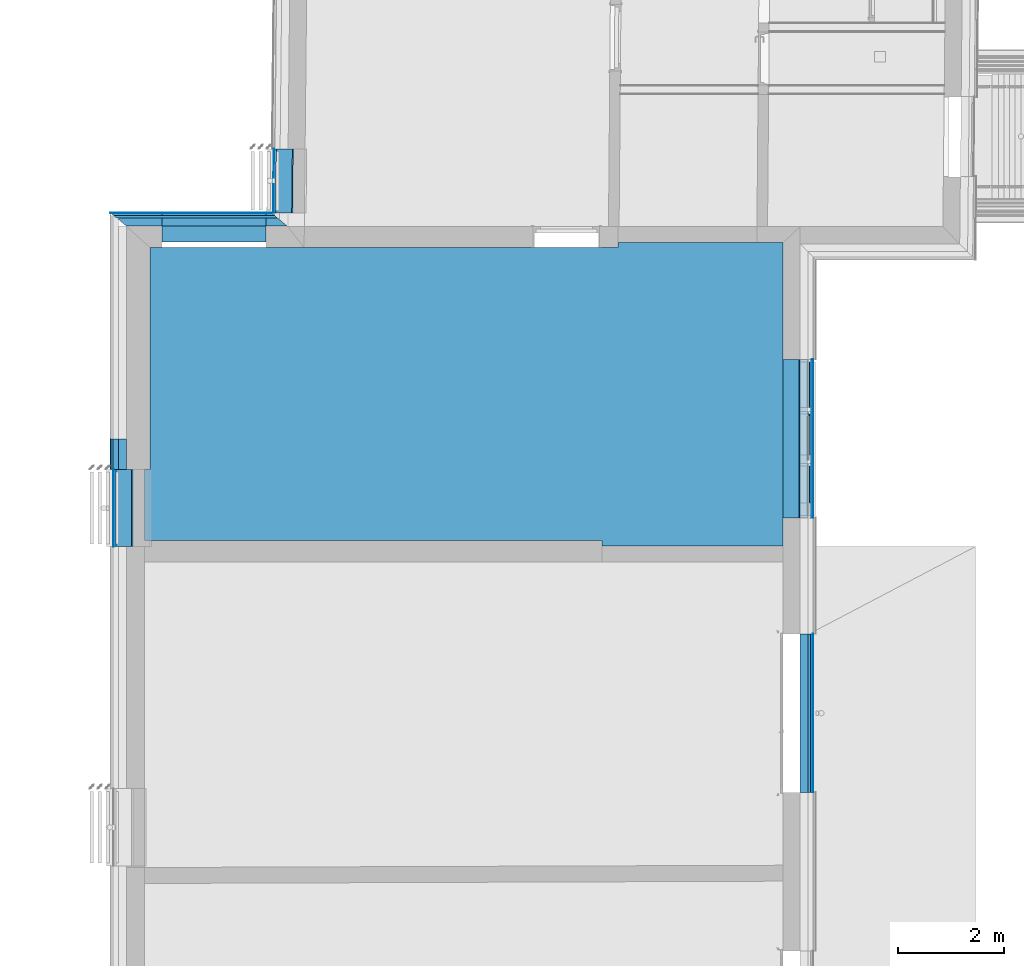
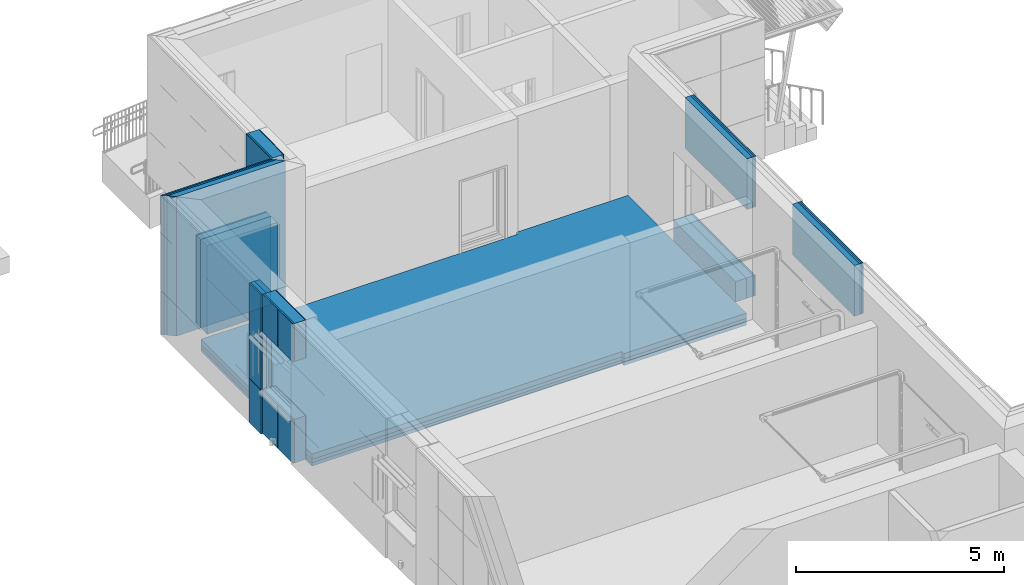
# One storey, part 52 of 418: 35 building element parts, 24 openings, 9 elements without a shape of their own.
"""IFC2X3 building model written with IfcOpenShell, lengths in millimetres."""

import ifcopenshell
import ifcopenshell.guid

model = None  # the IFC model being written
_history = None  # IfcOwnerHistory: only IFC2X3 demands one
_inside = {}  # id of a spatial element -> (the spatial element, [elements in it])
_under = {}  # id of a project, library or spatial element -> (it, [spatial elements below it])
_declared = {}  # id of a project -> (the project, [libraries it declares])
_typed = {}  # id of a type object -> (the type object, [elements of that type])
_made_of = {}  # id of a material, layer set ... -> (it, [elements and type objects made of it])


def new_model(schema):
    """Start an empty IFC model of exactly this schema.

    Asked for "IFC4X3", IfcOpenShell would pick the latest addendum, in which some entities
    have other attributes; the version numbers below select the first issue.
    IFC2X3 requires an IfcOwnerHistory on every rooted entity: one is made here for all.
    """
    global model, _history
    if schema == "IFC4X3":
        model = ifcopenshell.file(schema_version=(4, 3, 0, 0))
    else:
        model = ifcopenshell.file(schema=schema)
    _inside.clear()
    _under.clear()
    _declared.clear()
    _typed.clear()
    _made_of.clear()
    _history = None
    if model.schema == "IFC2X3":
        org = make("IfcOrganization", Name="unknown")
        user = make(
            "IfcPersonAndOrganization",
            ThePerson=make("IfcPerson", FamilyName="unknown"),
            TheOrganization=org,
        )
        app = make(
            "IfcApplication",
            ApplicationDeveloper=org,
            Version="unknown",
            ApplicationFullName="unknown",
            ApplicationIdentifier="unknown",
        )
        _history = make(
            "IfcOwnerHistory",
            OwningUser=user,
            OwningApplication=app,
            ChangeAction="ADDED",
            CreationDate=0,
        )
    return model


def make(cls, **values):
    """One entity of the class cls with the attributes given. An attribute that is None is left unset."""
    return model.create_entity(
        cls, **{name: value for name, value in values.items() if value is not None}
    )


def entity(cls, *values):
    """Any entity or typed value of the class cls, its attributes in the order of the schema. None: left unset."""
    e = model.create_entity(cls)
    for i, value in enumerate(values):
        if value is not None:
            e[i] = value
    return e


def rooted(cls, **values):
    """An entity with a GlobalId (a new one), such as an element, a storey or a relation."""
    return make(cls, GlobalId=ifcopenshell.guid.new(), OwnerHistory=_history, **values)


def si_unit(unit_type, name, prefix=None):
    """IfcSIUnit, for example si_unit("LENGTHUNIT", "METRE", prefix="MILLI")."""
    return make("IfcSIUnit", UnitType=unit_type, Prefix=prefix, Name=name)


def converted_unit(unit_type, name, factor, base, dimensions=None, offset=None):
    """IfcConversionBasedUnit, such as the inch: factor (a typed value) times the base unit."""
    return make(
        "IfcConversionBasedUnit"
        if offset is None
        else "IfcConversionBasedUnitWithOffset",
        ConversionOffset=offset,
        Dimensions=None
        if dimensions is None
        else entity("IfcDimensionalExponents", *dimensions),
        UnitType=unit_type,
        Name=name,
        ConversionFactor=make(
            "IfcMeasureWithUnit", ValueComponent=factor, UnitComponent=base
        ),
    )


def derived_unit(unit_type, elements):
    """IfcDerivedUnit: a product of units, each with its exponent."""
    return make(
        "IfcDerivedUnit",
        Elements=[
            make("IfcDerivedUnitElement", Unit=unit, Exponent=power)
            for unit, power in elements
        ],
        UnitType=unit_type,
    )


def money_unit(currency):
    """IfcMonetaryUnit."""
    return make("IfcMonetaryUnit", Currency=currency)


def assignment(units):
    """IfcUnitAssignment: the units of a project."""
    return None if units is None else make("IfcUnitAssignment", Units=units)


def point(xyz):
    """IfcCartesianPoint."""
    return None if xyz is None else make("IfcCartesianPoint", Coordinates=xyz)


def direction(xyz):
    """IfcDirection."""
    return None if xyz is None else make("IfcDirection", DirectionRatios=xyz)


def frame(location, z_axis=None, x_axis=None):
    """IfcAxis2Placement3D, a coordinate frame: its origin and axes. An axis left out is left unset."""
    return make(
        "IfcAxis2Placement3D",
        Location=point(location),
        Axis=direction(z_axis),
        RefDirection=direction(x_axis),
    )


def frame_2d(location, x_axis=None):
    """IfcAxis2Placement2D, a coordinate frame in the plane: its origin and x axis."""
    return make(
        "IfcAxis2Placement2D", Location=point(location), RefDirection=direction(x_axis)
    )


def origin_with_axes():
    """The frame at (0, 0, 0) with the z axis (0, 0, 1) and the x axis (1, 0, 0) written out."""
    return frame((0.0, 0.0, 0.0), z_axis=(0.0, 0.0, 1.0), x_axis=(1.0, 0.0, 0.0))


def origin_2d_with_axis():
    """The frame at (0, 0) in the plane with the x axis (1, 0) written out."""
    return frame_2d((0.0, 0.0), x_axis=(1.0, 0.0))


def place(relative_to, where):
    """IfcLocalPlacement: puts the frame where relative to a parent placement (None: the world)."""
    return make(
        "IfcLocalPlacement", PlacementRelTo=relative_to, RelativePlacement=where
    )


def context(
    kind, dimensions, precision=None, world=None, true_north=None, identifier=None
):
    """IfcGeometricRepresentationContext, for example the 3D "Model" context."""
    return make(
        "IfcGeometricRepresentationContext",
        ContextIdentifier=identifier,
        ContextType=kind,
        CoordinateSpaceDimension=dimensions,
        Precision=precision,
        WorldCoordinateSystem=world,
        TrueNorth=true_north,
    )


def subcontext(parent, identifier, kind, view, scale=None):
    """IfcGeometricRepresentationSubContext, for example "Body" below "Model"."""
    return make(
        "IfcGeometricRepresentationSubContext",
        ContextIdentifier=identifier,
        ContextType=kind,
        ParentContext=parent,
        TargetScale=scale,
        TargetView=view,
    )


def project(units=None, contexts=None):
    """IfcProject with its units and contexts."""
    return rooted(
        "IfcProject",
        Name="project",
        RepresentationContexts=contexts,
        UnitsInContext=assignment(units),
    )


def spatial(cls, under=None, at=None, **own):
    """A site, building, storey or space (cls), placed at a placement, below another one or the project."""
    s = rooted(cls, ObjectPlacement=at, **own)
    if under is not None:
        _under.setdefault(under.id(), (under, []))[1].append(s)
    return s


def polyline(points):
    """IfcPolyline through the points."""
    return make("IfcPolyline", Points=[point(p) for p in points])


def profile(cls, at=None, kind="AREA", **sizes):
    """A parametric profile (cls). Its sizes go by their IFC names, for example OverallWidth=200.0."""
    return make(cls, ProfileType=kind, Position=at, **sizes)


def rectangle(**sizes):
    """IfcRectangleProfileDef."""
    return profile("IfcRectangleProfileDef", **sizes)


def outline(outer, holes=None, kind="AREA"):
    """IfcArbitraryClosedProfileDef: a profile drawn as a closed curve; with holes, ...WithVoids."""
    if holes is None:
        return make("IfcArbitraryClosedProfileDef", ProfileType=kind, OuterCurve=outer)
    return make(
        "IfcArbitraryProfileDefWithVoids",
        ProfileType=kind,
        OuterCurve=outer,
        InnerCurves=holes,
    )


def extrude(swept, where, along, depth):
    """IfcExtrudedAreaSolid: the profile swept, set in the frame where, extruded along a direction by depth."""
    return make(
        "IfcExtrudedAreaSolid",
        SweptArea=swept,
        Position=where,
        ExtrudedDirection=direction(along),
        Depth=depth,
    )


def shape(context_of_items, identifier, shape_type, items):
    """IfcShapeRepresentation: the items that make up one representation, for example the "Body"."""
    return make(
        "IfcShapeRepresentation",
        ContextOfItems=context_of_items,
        RepresentationIdentifier=identifier,
        RepresentationType=shape_type,
        Items=items,
    )


def material(Name=None, Category=None):
    """IfcMaterial."""
    return make("IfcMaterial", Name=Name, Category=Category)


def made_of(thing, what):
    """Note that an element or type object is made of a material, layer set ...; save() writes the relation."""
    if what is not None:
        _made_of.setdefault(what.id(), (what, []))[1].append(thing)
    return thing


def type_object(cls, material=None, **own):
    """A type object (cls), such as IfcWallType, which elements share."""
    return made_of(rooted(cls, **own), material)


def element(
    cls,
    number,
    at=None,
    inside=None,
    cuts=None,
    type_object=None,
    material=None,
    context=None,
    identifier="Body",
    shape_type=None,
    held_by="IfcProductDefinitionShape",
    body=None,
    shapes=None,
    **own,
):
    """One element of the class cls, such as IfcWall. Its Tag is "e" and its number.

    at: its placement. inside: the storey or other place that contains it. cuts: it is an
    opening in that element (IfcRelVoidsElement). A single representation is given by context,
    identifier, shape_type and body (its items); several are given by shapes. held_by: the class
    of the entity that holds the representations. save() writes the other relations.
    """
    e = rooted(cls, Tag="e%d" % number, ObjectPlacement=at, **own)
    if body is not None:
        shapes = [shape(context, identifier, shape_type, body)]
    if shapes is not None:
        e.Representation = make(held_by, Representations=shapes)
    if inside is not None:
        _inside.setdefault(inside.id(), (inside, []))[1].append(e)
    if cuts is not None:
        rooted(
            "IfcRelVoidsElement", RelatingBuildingElement=cuts, RelatedOpeningElement=e
        )
    if type_object is not None:
        _typed.setdefault(type_object.id(), (type_object, []))[1].append(e)
    return made_of(e, material)


def aggregate(whole, parts):
    """IfcRelAggregates: a whole, such as a stair, and the parts it consists of."""
    return rooted("IfcRelAggregates", RelatingObject=whole, RelatedObjects=parts)


def save(model, path):
    """Write the relations noted so far, then the file.

    IfcRelAggregates (storeys below a building ...), IfcRelContainedInSpatialStructure (elements
    in a storey), IfcRelDefinesByType, IfcRelAssociatesMaterial and IfcRelDeclares: one each for
    every whole, place, type object, material and project.
    """
    for whole, parts in _under.values():
        aggregate(whole, parts)
    for where, things in _inside.values():
        rooted(
            "IfcRelContainedInSpatialStructure",
            RelatedElements=things,
            RelatingStructure=where,
        )
    for kind, things in _typed.values():
        rooted("IfcRelDefinesByType", RelatedObjects=things, RelatingType=kind)
    for what, things in _made_of.values():
        rooted("IfcRelAssociatesMaterial", RelatedObjects=things, RelatingMaterial=what)
    for by, libraries in _declared.values():
        rooted("IfcRelDeclares", RelatingContext=by, RelatedDefinitions=libraries)
    model.write(path)


model = new_model("IFC2X3")

# Units and contexts
model_context = context("Model", 3, precision=0.01, world=origin_with_axes(), true_north=direction((0.0, 1.0)))
body_context = subcontext(model_context, "Body", "Model", "MODEL_VIEW")
ifc_project = project(units=[si_unit("LENGTHUNIT", "METRE", prefix="MILLI"), si_unit("AREAUNIT", "SQUARE_METRE"), si_unit("VOLUMEUNIT", "CUBIC_METRE"), converted_unit("PLANEANGLEUNIT", "DEGREE", entity("IfcPlaneAngleMeasure", 0.0174532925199), si_unit("PLANEANGLEUNIT", "RADIAN"), dimensions=[0, 0, 0, 0, 0, 0, 0]), si_unit("SOLIDANGLEUNIT", "STERADIAN"), money_unit("EUR"), converted_unit("TIMEUNIT", "Year", entity("IfcTimeMeasure", 31556926.0), si_unit("TIMEUNIT", "SECOND"), dimensions=[0, 0, 1, 0, 0, 0, 0]), si_unit("MASSUNIT", "GRAM", prefix="KILO"), si_unit("THERMODYNAMICTEMPERATUREUNIT", "DEGREE_CELSIUS"), si_unit("LUMINOUSINTENSITYUNIT", "LUMEN"), si_unit("ENERGYUNIT", "JOULE", prefix="MEGA"), derived_unit("THERMALCONDUCTANCEUNIT", [(si_unit("POWERUNIT", "WATT"), 1), (si_unit("LENGTHUNIT", "METRE"), -1), (si_unit("THERMODYNAMICTEMPERATUREUNIT", "KELVIN"), -1)]), derived_unit("SPECIFICHEATCAPACITYUNIT", [(si_unit("ENERGYUNIT", "JOULE"), 1), (si_unit("MASSUNIT", "GRAM", prefix="KILO"), -1), (si_unit("THERMODYNAMICTEMPERATUREUNIT", "KELVIN"), -1)]), derived_unit("MASSDENSITYUNIT", [(si_unit("MASSUNIT", "GRAM", prefix="KILO"), 1), (si_unit("VOLUMEUNIT", "CUBIC_METRE"), -1)])], contexts=[model_context])

# Site, building, storey
site_placement = place(None, origin_with_axes())
site = spatial("IfcSite", under=ifc_project, at=site_placement, Name="Paldiski mnt 245/1, Tallinn, Harjumaa", CompositionType="COMPLEX")
building_placement = place(site_placement, origin_with_axes())
building = spatial("IfcBuilding", under=site, at=building_placement, Name="RKAS Hoone üldnimetus (kasutust iseloomustav) -> IFC Project Manager -> SOLIBRI", CompositionType="ELEMENT")
storey_placement = place(building_placement, origin_with_axes())
storey = spatial("IfcBuildingStorey", under=building, at=storey_placement, Name="Esimene korrus", CompositionType="ELEMENT", Elevation=0.0)

# Slab, building element parts
slab_type = type_object("IfcSlabType", Name="AP-01 350", PredefinedType="NOTDEFINED")
slab_placement = place(storey_placement, frame((-62290.0, 29749.8287244, 0.0), z_axis=(0.0, 0.0, 1.0), x_axis=(1.0, 0.0, 0.0)))
slab = element("IfcSlab", 1, at=slab_placement, inside=storey, type_object=slab_type, Name="AP-01", PredefinedType="NOTDEFINED")
ifc_material_1 = material(Name="EPS 200")
building_element_part_1_placement = place(slab_placement, origin_with_axes())
building_element_part_1 = element("IfcBuildingElementPart", 2, at=building_element_part_1_placement, material=ifc_material_1, Name="EPS 200", context=body_context, shape_type="SweptSolid", body=[
    extrude(outline(polyline([(0.0, 0.0), (0.000101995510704, -4170.49767002), (-100.000003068, -4170.49766608), (-100.000055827, -5510.49766071), (8500.0, -5510.49766071), (8500.0, -5610.0), (11900.0, -5610.0), (11900.0, 89.9999999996), (8800.0, 89.9999999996), (8800.0, -3.48165940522e-10), (0.0, 0.0)])), frame((0.0, 0.0, -350.0), z_axis=(0.0, 0.0, 1.0), x_axis=(1.0, 0.0, 0.0)), (0.0, 0.0, 1.0), 100.0),
])
building_element_part_2_placement = place(slab_placement, origin_with_axes())
building_element_part_2 = element("IfcBuildingElementPart", 3, at=building_element_part_2_placement, material=ifc_material_1, Name="EPS 200", context=body_context, shape_type="SweptSolid", body=[
    extrude(outline(polyline([(0.0, 0.0), (0.000101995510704, -4170.49767002), (-100.000003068, -4170.49766608), (-100.000055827, -5510.49766071), (8500.0, -5510.49766071), (8500.0, -5610.0), (11900.0, -5610.0), (11900.0, 89.9999999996), (8800.0, 89.9999999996), (8800.0, -3.48165940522e-10), (0.0, 0.0)])), frame((0.0, 0.0, -250.0), z_axis=(0.0, 0.0, 1.0), x_axis=(1.0, 0.0, 0.0)), (0.0, 0.0, 1.0), 100.0),
])
ifc_material_2 = material(Name="Kiudbetoon")
building_element_part_3_placement = place(slab_placement, origin_with_axes())
building_element_part_3 = element("IfcBuildingElementPart", 4, at=building_element_part_3_placement, material=ifc_material_2, Name="Kiudbetoon", context=body_context, shape_type="SweptSolid", body=[
    extrude(outline(polyline([(0.0, 0.0), (0.000101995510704, -4170.49767002), (-100.000003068, -4170.49766608), (-100.000055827, -5510.49766071), (8500.0, -5510.49766071), (8500.0, -5610.0), (11900.0, -5610.0), (11900.0, 89.9999999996), (8800.0, 89.9999999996), (8800.0, -3.48165940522e-10), (0.0, 0.0)])), frame((0.0, 0.0, -150.0), z_axis=(0.0, 0.0, 1.0), x_axis=(1.0, 0.0, 0.0)), (0.0, 0.0, 1.0), 150.0),
])
aggregate(slab, [building_element_part_1, building_element_part_2, building_element_part_3])

# Wall, openings, building element parts
wall_type_1 = type_object("IfcWallType", Name="VS-06.1 550", PredefinedType="NOTDEFINED")
wall_1_placement = place(storey_placement, frame((-62060.0, 29849.8287244, 0.0), z_axis=(0.0, 0.0, 1.0), x_axis=(1.0, 0.0, 0.0)))
wall_1 = element("IfcWall", 5, at=wall_1_placement, inside=storey, type_object=wall_type_1, Name="VS-06.1")
opening_1_placement = place(wall_1_placement, frame((230.42748075, 0.0, 0.0), z_axis=(0.0, 0.0, 1.0), x_axis=(1.0, 0.0, 0.0)))
element("IfcOpeningElement", 6, at=opening_1_placement, cuts=wall_1, Name="Cembrit fassaadiplaadi vuuk", context=body_context, shape_type="SweptSolid", body=[
    extrude(outline(polyline([(-4.0, 0.0), (4.0, 0.0), (4.0, 4090.0), (-4.0, 4090.0), (-4.0, 0.0)])), frame((0.0, 542.0, 0.0), z_axis=(0.0, -1.0, 0.0), x_axis=(1.0, 0.0, 0.0)), (0.0, 0.0, -1.0), 558.0),
])
opening_2_placement = place(wall_1_placement, frame((1430.42748075, 0.0, 0.0), z_axis=(0.0, 0.0, 1.0), x_axis=(1.0, 0.0, 0.0)))
element("IfcOpeningElement", 7, at=opening_2_placement, cuts=wall_1, Name="Cembrit fassaadiplaadi vuuk", context=body_context, shape_type="SweptSolid", body=[
    extrude(outline(polyline([(-4.0, 0.0), (4.0, 0.0), (4.0, 4090.0), (-4.0, 4090.0), (-4.0, 0.0)])), frame((0.0, 542.0, 0.0), z_axis=(0.0, -1.0, 0.0), x_axis=(1.0, 0.0, 0.0)), (0.0, 0.0, -1.0), 558.0),
])
opening_3_placement = place(wall_1_placement, frame((602.081121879, 0.0, 1298.0), z_axis=(0.0, 0.0, 1.0), x_axis=(1.0, 0.0, 0.0)))
element("IfcOpeningElement", 8, at=opening_3_placement, cuts=wall_1, Name="Cembrit fassaadiplaadi vuuk", context=body_context, shape_type="SweptSolid", body=[
    extrude(outline(polyline([(-1531.6536599, 0.0), (1531.6536599, 0.0), (1531.6536599, 8.0), (-1531.6536599, 8.0), (-1531.6536599, 0.0)])), frame((0.0, 542.0, 0.0), z_axis=(0.0, -1.0, 0.0), x_axis=(1.0, 0.0, 0.0)), (0.0, 0.0, -1.0), 558.0),
])
ifc_material_3 = material(Name="BAUROC CLASSIC 3 MPa kergplokk")
building_element_part_4_placement = place(wall_1_placement, origin_with_axes())
building_element_part_4 = element("IfcBuildingElementPart", 9, at=building_element_part_4_placement, material=ifc_material_3, Name="BAUROC CLASSIC 3 MPa kergplokk", context=body_context, shape_type="SweptSolid", body=[
    extrude(outline(polyline([(0.0, 0.0), (1950.0, 0.0), (1950.0, 300.0), (0.0, 300.0), (0.0, 0.0)])), origin_with_axes(), (0.0, 0.0, 1.0), 2600.0),
])
ifc_material_4 = material(Name="Kingspan Kooltherm")
building_element_part_5_placement = place(wall_1_placement, origin_with_axes())
building_element_part_5 = element("IfcBuildingElementPart", 10, at=building_element_part_5_placement, material=ifc_material_4, Name="Kingspan Kooltherm", context=body_context, shape_type="SweptSolid", body=[
    extrude(outline(polyline([(0.0, 300.0), (1950.0, 300.0), (1950.0, 500.0), (0.0, 500.0), (0.0, 300.0)])), origin_with_axes(), (0.0, 0.0, 1.0), 2600.0),
])
ifc_material_5 = material(Name="VKR-06_Õhkvahe")
building_element_part_6_placement = place(wall_1_placement, origin_with_axes())
building_element_part_6 = element("IfcBuildingElementPart", 11, at=building_element_part_6_placement, material=ifc_material_5, Name="VKR-06_Õhkvahe", context=body_context, shape_type="SweptSolid", body=[
    extrude(outline(polyline([(0.0, 500.0), (1950.0, 500.0), (1950.0, 542.0), (0.0, 542.0), (0.0, 500.0)])), origin_with_axes(), (0.0, 0.0, 1.0), 2600.0),
])
ifc_material_6 = material(Name="Cembrit_C060")
building_element_part_7_placement = place(wall_1_placement, origin_with_axes())
building_element_part_7 = element("IfcBuildingElementPart", 12, at=building_element_part_7_placement, material=ifc_material_6, Name="Cembrit_C060", context=body_context, shape_type="SweptSolid", body=[
    extrude(outline(polyline([(0.0, 542.0), (1950.0, 542.0), (1950.0, 550.0), (0.0, 550.0), (0.0, 542.0)])), origin_with_axes(), (0.0, 0.0, 1.0), 2600.0),
])
aggregate(wall_1, [building_element_part_4, building_element_part_5, building_element_part_6, building_element_part_7])

wall_type_2 = type_object("IfcWallType", Name="VS-05C_uued_kihid 370", PredefinedType="NOTDEFINED")
wall_2_placement = place(storey_placement, frame((-62610.0, 25579.3310636, 0.0), z_axis=(0.0, 0.0, 1.0), x_axis=(0.0, -1.0, 0.0)))
wall_2 = element("IfcWall", 13, at=wall_2_placement, inside=storey, type_object=wall_type_2, Name="VS-05")
opening_4_placement = place(wall_2_placement, frame((725.0, 0.0, 1280.0), z_axis=(0.0, 0.0, 1.0), x_axis=(1.0, 0.0, 0.0)))
element("IfcOpeningElement", 14, at=opening_4_placement, cuts=wall_2, Name="A-06", context=body_context, shape_type="SweptSolid", body=[
    extrude(rectangle(XDim=1450.0, YDim=1700.0, at=origin_2d_with_axis()), frame((0.0, -220.0, 850.0), z_axis=(0.0, 1.0, 0.0), x_axis=(-1.0, 0.0, 0.0)), (0.0, 0.0, 1.0), 590.0),
    extrude(rectangle(XDim=1450.0, YDim=1700.0, at=origin_2d_with_axis()), frame((0.0, -220.0, 850.0), z_axis=(0.0, -1.0, 0.0), x_axis=(-1.0, 0.0, 0.0)), (0.0, 0.0, 1.0), 520.0),
    extrude(rectangle(XDim=1450.0, YDim=1700.0, at=origin_2d_with_axis()), frame((0.0, 0.0, 850.0), z_axis=(0.0, 1.0, 0.0), x_axis=(-1.0, 0.0, 0.0)), (0.0, 0.0, 1.0), 520.0),
    extrude(rectangle(XDim=1450.0, YDim=1708.0, at=origin_2d_with_axis()), frame((0.0, -370.0, 846.0), z_axis=(0.0, -1.0, 0.0), x_axis=(-1.0, 0.0, 0.0)), (0.0, 0.0, 1.0), 520.0),
])
opening_5_placement = place(wall_2_placement, frame((725.0, 0.0, 0.0), z_axis=(0.0, 0.0, 1.0), x_axis=(1.0, 0.0, 0.0)))
element("IfcOpeningElement", 15, at=opening_5_placement, cuts=wall_2, Name="Cembrit fassaadiplaadi vuuk", context=body_context, shape_type="SweptSolid", body=[
    extrude(outline(polyline([(-4.00000000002, 0.0), (3.99999999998, 0.0), (3.99999999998, 4090.0), (-4.00000000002, 4090.0), (-4.00000000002, 0.0)])), frame((0.0, -362.0, 0.0), z_axis=(0.0, -1.0, 0.0), x_axis=(1.0, 0.0, 0.0)), (0.0, 0.0, 1.0), 378.0),
])
building_element_part_8_placement = place(wall_2_placement, origin_with_axes())
building_element_part_8 = element("IfcBuildingElementPart", 16, at=building_element_part_8_placement, material=ifc_material_6, Name="Cembrit_C060", context=body_context, shape_type="SweptSolid", body=[
    extrude(outline(polyline([(0.0, -370.0), (1450.0, -370.0), (1450.0, -362.0), (0.0, -362.0), (0.0, -370.0)])), origin_with_axes(), (0.0, 0.0, 1.0), 4090.0),
])
building_element_part_9_placement = place(wall_2_placement, origin_with_axes())
building_element_part_9 = element("IfcBuildingElementPart", 17, at=building_element_part_9_placement, material=ifc_material_5, Name="VKR-06_Õhkvahe", context=body_context, shape_type="SweptSolid", body=[
    extrude(outline(polyline([(0.0, -362.0), (1450.0, -362.0), (1450.0, -320.0), (0.0, -320.0), (0.0, -362.0)])), origin_with_axes(), (0.0, 0.0, 1.0), 4090.0),
])
building_element_part_10_placement = place(wall_2_placement, origin_with_axes())
building_element_part_10 = element("IfcBuildingElementPart", 18, at=building_element_part_10_placement, material=ifc_material_4, Name="Kingspan Kooltherm", context=body_context, shape_type="SweptSolid", body=[
    extrude(outline(polyline([(0.0, -320.0), (1450.0, -320.0), (1450.0, -20.0), (0.0, -20.0), (0.0, -320.0)])), origin_with_axes(), (0.0, 0.0, 1.0), 4090.0),
])
ifc_material_7 = material(Name="Tasanduskrohv")
building_element_part_11_placement = place(wall_2_placement, origin_with_axes())
building_element_part_11 = element("IfcBuildingElementPart", 19, at=building_element_part_11_placement, material=ifc_material_7, Name="Tasanduskrohv", context=body_context, shape_type="SweptSolid", body=[
    extrude(outline(polyline([(0.0, -20.0), (1450.0, -20.0), (1450.0, 0.0), (0.0, 0.0), (0.0, -20.0)])), origin_with_axes(), (0.0, 0.0, 1.0), 4090.0),
])
aggregate(wall_2, [building_element_part_8, building_element_part_9, building_element_part_10, building_element_part_11])

wall_3_placement = place(storey_placement, frame((-50390.0, 27646.8286392, 0.0), z_axis=(0.0, 0.0, 1.0), x_axis=(0.0, -1.0, 0.0)))
wall_3 = element("IfcWall", 20, at=wall_3_placement, inside=storey, type_object=wall_type_1, Name="VS-06.1")
opening_6_placement = place(wall_3_placement, frame((993.06412171, 0.0, 0.0), z_axis=(0.0, 0.0, 1.0), x_axis=(1.0, 0.0, 0.0)))
element("IfcOpeningElement", 21, at=opening_6_placement, cuts=wall_3, Name="Cembrit fassaadiplaadi vuuk", context=body_context, shape_type="SweptSolid", body=[
    extrude(outline(polyline([(-4.0, 0.0), (4.0, 0.0), (4.0, 4090.0), (-4.0, 4090.0), (-4.0, 0.0)])), frame((0.0, 542.0, 0.0), z_axis=(0.0, -1.0, 0.0), x_axis=(1.0, 0.0, 0.0)), (0.0, 0.0, -1.0), 558.0),
])
opening_7_placement = place(wall_3_placement, frame((1986.39745332, 0.0, 0.0), z_axis=(0.0, 0.0, 1.0), x_axis=(1.0, 0.0, 0.0)))
element("IfcOpeningElement", 22, at=opening_7_placement, cuts=wall_3, Name="Cembrit fassaadiplaadi vuuk", context=body_context, shape_type="SweptSolid", body=[
    extrude(outline(polyline([(-4.0, 0.0), (4.0, 0.0), (4.0, 4090.0), (-4.0, 4090.0), (-4.0, 0.0)])), frame((0.0, 542.0, 0.0), z_axis=(0.0, -1.0, 0.0), x_axis=(1.0, 0.0, 0.0)), (0.0, 0.0, -1.0), 558.0),
])
building_element_part_12_placement = place(wall_3_placement, origin_with_axes())
building_element_part_12 = element("IfcBuildingElementPart", 23, at=building_element_part_12_placement, material=ifc_material_3, Name="BAUROC CLASSIC 3 MPa kergplokk", context=body_context, shape_type="SweptSolid", body=[
    extrude(outline(polyline([(0.0, 0.0), (2980.0, 0.0), (2980.0, 300.0), (0.0, 300.0), (0.0, 0.0)])), origin_with_axes(), (0.0, 0.0, 1.0), 600.0),
])
building_element_part_13_placement = place(wall_3_placement, origin_with_axes())
building_element_part_13 = element("IfcBuildingElementPart", 24, at=building_element_part_13_placement, material=ifc_material_4, Name="Kingspan Kooltherm", context=body_context, shape_type="SweptSolid", body=[
    extrude(outline(polyline([(0.0, 300.0), (2980.0, 300.0), (2980.0, 500.0), (0.0, 500.0), (0.0, 300.0)])), origin_with_axes(), (0.0, 0.0, 1.0), 600.0),
])
building_element_part_14_placement = place(wall_3_placement, origin_with_axes())
building_element_part_14 = element("IfcBuildingElementPart", 25, at=building_element_part_14_placement, material=ifc_material_5, Name="VKR-06_Õhkvahe", context=body_context, shape_type="SweptSolid", body=[
    extrude(outline(polyline([(0.0, 500.0), (2980.0, 500.0), (2980.0, 542.0), (0.0, 542.0), (0.0, 500.0)])), origin_with_axes(), (0.0, 0.0, 1.0), 600.0),
])
building_element_part_15_placement = place(wall_3_placement, origin_with_axes())
building_element_part_15 = element("IfcBuildingElementPart", 26, at=building_element_part_15_placement, material=ifc_material_6, Name="Cembrit_C060", context=body_context, shape_type="SweptSolid", body=[
    extrude(outline(polyline([(0.0, 542.0), (2980.0, 542.0), (2980.0, 550.0), (0.0, 550.0), (0.0, 542.0)])), origin_with_axes(), (0.0, 0.0, 1.0), 600.0),
])
aggregate(wall_3, [building_element_part_12, building_element_part_13, building_element_part_14, building_element_part_15])

wall_type_3 = type_object("IfcWallType", Name="VS-03.1_uued_kihid 250", PredefinedType="NOTDEFINED")
wall_4_placement = place(storey_placement, frame((-50070.0, 22486.828376, 2600.0), z_axis=(0.0, 0.0, 1.0), x_axis=(0.0, -1.0, 0.0)))
wall_4 = element("IfcWall", 27, at=wall_4_placement, inside=storey, type_object=wall_type_3, Name="VS-03.1")
opening_8_placement = place(wall_4_placement, frame((993.999777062, 0.0, -40.0), z_axis=(0.0, 0.0, 1.0), x_axis=(1.0, 0.0, 0.0)))
element("IfcOpeningElement", 28, at=opening_8_placement, cuts=wall_4, Name="Cembrit fassaadiplaadi vuuk", context=body_context, shape_type="SweptSolid", body=[
    extrude(outline(polyline([(-4.0, 0.0), (4.0, 0.0), (4.0, 1530.0), (-4.0, 1530.0), (-4.0, 0.0)])), frame((0.0, 242.0, 0.0), z_axis=(0.0, -1.0, 0.0), x_axis=(1.0, 0.0, 0.0)), (0.0, 0.0, -1.0), 258.0),
])
opening_9_placement = place(wall_4_placement, frame((1993.99977706, 0.0, -40.0), z_axis=(0.0, 0.0, 1.0), x_axis=(1.0, 0.0, 0.0)))
element("IfcOpeningElement", 29, at=opening_9_placement, cuts=wall_4, Name="Cembrit fassaadiplaadi vuuk", context=body_context, shape_type="SweptSolid", body=[
    extrude(outline(polyline([(-4.0, 0.0), (4.0, 0.0), (4.0, 1530.0), (-4.0, 1530.0), (-4.0, 0.0)])), frame((0.0, 242.0, 0.0), z_axis=(0.0, -1.0, 0.0), x_axis=(1.0, 0.0, 0.0)), (0.0, 0.0, -1.0), 258.0),
])
opening_10_placement = place(wall_4_placement, frame((1489.9998788, 0.0, 390.0), z_axis=(0.0, 0.0, 1.0), x_axis=(1.0, 0.0, 0.0)))
element("IfcOpeningElement", 30, at=opening_10_placement, cuts=wall_4, Name="Cembrit fassaadiplaadi vuuk", context=body_context, shape_type="SweptSolid", body=[
    extrude(outline(polyline([(-1490.0, 0.0), (1490.0, 0.0), (1490.0, 8.0), (-1490.0, 8.0), (-1490.0, 0.0)])), frame((0.0, 242.0, 0.0), z_axis=(0.0, -1.0, 0.0), x_axis=(1.0, 0.0, 0.0)), (0.0, 0.0, -1.0), 258.0),
])
building_element_part_16_placement = place(wall_4_placement, origin_with_axes())
building_element_part_16 = element("IfcBuildingElementPart", 31, at=building_element_part_16_placement, material=ifc_material_6, Name="Cembrit_C060", context=body_context, shape_type="SweptSolid", body=[
    extrude(outline(polyline([(0.0, 242.0), (2980.0, 242.0), (2980.0, 250.0), (0.0, 250.0), (0.0, 242.0)])), origin_with_axes(), (0.0, 0.0, 1.0), 1490.0),
])
building_element_part_17_placement = place(wall_4_placement, origin_with_axes())
building_element_part_17 = element("IfcBuildingElementPart", 32, at=building_element_part_17_placement, material=ifc_material_5, Name="VKR-06_Õhkvahe", context=body_context, shape_type="SweptSolid", body=[
    extrude(outline(polyline([(0.0, 200.0), (2980.0, 200.0), (2980.0, 242.0), (0.0, 242.0), (0.0, 200.0)])), origin_with_axes(), (0.0, 0.0, 1.0), 1490.0),
])
building_element_part_18_placement = place(wall_4_placement, origin_with_axes())
building_element_part_18 = element("IfcBuildingElementPart", 33, at=building_element_part_18_placement, material=ifc_material_4, Name="Kingspan Kooltherm", context=body_context, shape_type="SweptSolid", body=[
    extrude(outline(polyline([(0.0, 150.0), (2980.0, 150.0), (2980.0, 200.0), (0.0, 200.0), (0.0, 150.0)])), origin_with_axes(), (0.0, 0.0, 1.0), 1490.0),
])
building_element_part_19_placement = place(wall_4_placement, origin_with_axes())
building_element_part_19 = element("IfcBuildingElementPart", 34, at=building_element_part_19_placement, material=ifc_material_4, Name="Kingspan Kooltherm", context=body_context, shape_type="SweptSolid", body=[
    extrude(outline(polyline([(0.0, 0.0), (2980.0, 0.0), (2980.0, 150.0), (0.0, 150.0), (0.0, 0.0)])), origin_with_axes(), (0.0, 0.0, 1.0), 1490.0),
])
aggregate(wall_4, [building_element_part_16, building_element_part_17, building_element_part_18, building_element_part_19])

wall_type_4 = type_object("IfcWallType", Name="VS-05D_uued_kihid 370", PredefinedType="NOTDEFINED")
wall_5_placement = place(storey_placement, frame((-59591.3382179, 31601.9729784, 0.0), z_axis=(0.0, 0.0, 1.0), x_axis=(-0.0100812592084, -0.999949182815, 0.0)))
wall_5 = element("IfcWall", 35, at=wall_5_placement, inside=storey, type_object=wall_type_4, Name="VS-05")
opening_11_placement = place(wall_5_placement, frame((606.766178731, 0.0, 0.0), z_axis=(0.0, 0.0, 1.0), x_axis=(1.0, 0.0, 0.0)))
element("IfcOpeningElement", 36, at=opening_11_placement, cuts=wall_5, Name="Cembrit fassaadiplaadi vuuk", context=body_context, shape_type="SweptSolid", body=[
    extrude(outline(polyline([(-3.99999999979, 0.0), (4.0000000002, 0.0), (4.0000000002, 4090.0), (-3.99999999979, 4090.0), (-3.99999999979, 0.0)])), frame((2.0605739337e-10, -362.0, 0.0), z_axis=(0.0, 1.0, 0.0), x_axis=(-1.0, 0.0, 0.0)), (0.0, 0.0, -1.0), 378.0),
])
opening_12_placement = place(wall_5_placement, frame((602.766178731, 0.0, 1280.0), z_axis=(0.0, 0.0, 1.0), x_axis=(1.0, 0.0, 0.0)))
element("IfcOpeningElement", 37, at=opening_12_placement, cuts=wall_5, Name="A-07", context=body_context, shape_type="SweptSolid", body=[
    extrude(rectangle(XDim=1200.0, YDim=1700.0, at=origin_2d_with_axis()), frame((0.0, -220.0, 850.0), z_axis=(0.0, 1.0, 0.0), x_axis=(-1.0, 0.0, 0.0)), (0.0, 0.0, 1.0), 590.0),
    extrude(rectangle(XDim=1200.0, YDim=1700.0, at=origin_2d_with_axis()), frame((0.0, -220.0, 850.0), z_axis=(0.0, -1.0, 0.0), x_axis=(-1.0, 0.0, 0.0)), (0.0, 0.0, 1.0), 520.0),
    extrude(rectangle(XDim=1200.0, YDim=1700.0, at=origin_2d_with_axis()), frame((0.0, 0.0, 850.0), z_axis=(0.0, 1.0, 0.0), x_axis=(-1.0, 0.0, 0.0)), (0.0, 0.0, 1.0), 520.0),
    extrude(rectangle(XDim=1200.0, YDim=1708.0, at=origin_2d_with_axis()), frame((0.0, -370.0, 846.0), z_axis=(0.0, -1.0, 0.0), x_axis=(-1.0, 0.0, 0.0)), (0.0, 0.0, 1.0), 520.0),
])
building_element_part_20_placement = place(wall_5_placement, origin_with_axes())
building_element_part_20 = element("IfcBuildingElementPart", 38, at=building_element_part_20_placement, material=ifc_material_6, Name="Cembrit_C060", context=body_context, shape_type="SweptSolid", body=[
    extrude(outline(polyline([(0.0, -370.0), (1202.76617873, -370.0), (1202.76617873, -362.0), (0.0, -362.0), (0.0, -370.0)])), origin_with_axes(), (0.0, 0.0, 1.0), 4090.0),
])
building_element_part_21_placement = place(wall_5_placement, origin_with_axes())
building_element_part_21 = element("IfcBuildingElementPart", 39, at=building_element_part_21_placement, material=ifc_material_5, Name="VKR-06_Õhkvahe", context=body_context, shape_type="SweptSolid", body=[
    extrude(outline(polyline([(0.0, -362.0), (1202.76617873, -362.0), (1202.76617873, -320.0), (0.0, -320.0), (0.0, -362.0)])), origin_with_axes(), (0.0, 0.0, 1.0), 4090.0),
])
building_element_part_22_placement = place(wall_5_placement, origin_with_axes())
building_element_part_22 = element("IfcBuildingElementPart", 40, at=building_element_part_22_placement, material=ifc_material_4, Name="Kingspan Kooltherm", context=body_context, shape_type="SweptSolid", body=[
    extrude(outline(polyline([(0.0, -320.0), (1202.76617873, -320.0), (1202.76617873, -20.0), (0.0, -20.0), (0.0, -320.0)])), origin_with_axes(), (0.0, 0.0, 1.0), 4090.0),
])
building_element_part_23_placement = place(wall_5_placement, origin_with_axes())
building_element_part_23 = element("IfcBuildingElementPart", 41, at=building_element_part_23_placement, material=ifc_material_7, Name="Tasanduskrohv", context=body_context, shape_type="SweptSolid", body=[
    extrude(outline(polyline([(0.0, -20.0), (1202.76617873, -20.0), (1202.76617873, 0.0), (0.0, 0.0), (0.0, -20.0)])), origin_with_axes(), (0.0, 0.0, 1.0), 4090.0),
])
aggregate(wall_5, [building_element_part_20, building_element_part_21, building_element_part_22, building_element_part_23])

wall_type_5 = type_object("IfcWallType", Name="VS-03.1A _uued_kihid 250", PredefinedType="NOTDEFINED")
wall_6_placement = place(storey_placement, frame((-62730.0, 30149.8287244, 0.0), z_axis=(0.0, 0.0, 1.0), x_axis=(1.0, 0.0, 0.0)))
wall_6 = element("IfcWall", 42, at=wall_6_placement, inside=storey, type_object=wall_type_5, Name="VS-03.1")
opening_13_placement = place(wall_6_placement, frame((900.0, 0.0, 0.0), z_axis=(0.0, 0.0, 1.0), x_axis=(1.0, 0.0, 0.0)))
element("IfcOpeningElement", 43, at=opening_13_placement, cuts=wall_6, Name="Cembrit fassaadiplaadi vuuk", context=body_context, shape_type="SweptSolid", body=[
    extrude(outline(polyline([(-4.0, 0.0), (4.0, 0.0), (4.0, 4090.0), (-4.0, 4090.0), (-4.0, 0.0)])), frame((0.0, 242.0, 0.0), z_axis=(0.0, -1.0, 0.0), x_axis=(1.0, 0.0, 0.0)), (0.0, 0.0, -1.0), 258.0),
])
opening_14_placement = place(wall_6_placement, frame((2100.0, 0.0, 0.0), z_axis=(0.0, 0.0, 1.0), x_axis=(1.0, 0.0, 0.0)))
element("IfcOpeningElement", 44, at=opening_14_placement, cuts=wall_6, Name="Cembrit fassaadiplaadi vuuk", context=body_context, shape_type="SweptSolid", body=[
    extrude(outline(polyline([(-4.0, 0.0), (4.0, 0.0), (4.0, 4090.0), (-4.0, 4090.0), (-4.0, 0.0)])), frame((0.0, 242.0, 0.0), z_axis=(0.0, -1.0, 0.0), x_axis=(1.0, 0.0, 0.0)), (0.0, 0.0, -1.0), 258.0),
])
opening_15_placement = place(wall_6_placement, frame((1251.86739089, 0.0, 1298.0), z_axis=(0.0, 0.0, 1.0), x_axis=(1.0, 0.0, 0.0)))
element("IfcOpeningElement", 45, at=opening_15_placement, cuts=wall_6, Name="Cembrit fassaadiplaadi vuuk", context=body_context, shape_type="SweptSolid", body=[
    extrude(outline(polyline([(-1551.86739089, 0.0), (1551.86739089, 0.0), (1551.86739089, 8.0), (-1551.86739089, 8.0), (-1551.86739089, 0.0)])), frame((0.0, 242.0, 0.0), z_axis=(0.0, -1.0, 0.0), x_axis=(1.0, 0.0, 0.0)), (0.0, 0.0, -1.0), 258.0),
])
opening_16_placement = place(wall_6_placement, frame((1251.86739089, 0.0, 2990.0), z_axis=(0.0, 0.0, 1.0), x_axis=(1.0, 0.0, 0.0)))
element("IfcOpeningElement", 46, at=opening_16_placement, cuts=wall_6, Name="Cembrit fassaadiplaadi vuuk", context=body_context, shape_type="SweptSolid", body=[
    extrude(outline(polyline([(-1551.86739089, 0.0), (1551.86739089, 0.0), (1551.86739089, 8.0), (-1551.86739089, 8.0), (-1551.86739089, 0.0)])), frame((0.0, 242.0, 0.0), z_axis=(0.0, -1.0, 0.0), x_axis=(1.0, 0.0, 0.0)), (0.0, 0.0, -1.0), 258.0),
])
opening_17_placement = place(wall_6_placement, frame((1645.0, 0.0, 0.0), z_axis=(0.0, 0.0, 1.0), x_axis=(1.0, 0.0, 0.0)))
element("IfcOpeningElement", 47, at=opening_17_placement, cuts=wall_6, Name="Uks", context=body_context, shape_type="SweptSolid", body=[
    extrude(rectangle(XDim=1950.0, YDim=2600.0, at=origin_2d_with_axis()), frame((0.0, 0.0, 1300.0), z_axis=(0.0, 1.0, 0.0), x_axis=(1.0, 0.0, 0.0)), (0.0, 0.0, -1.0), 250.0),
    extrude(rectangle(XDim=1950.0, YDim=2600.0, at=origin_2d_with_axis()), frame((0.0, 0.0, 1300.0), z_axis=(0.0, -1.0, 0.0), x_axis=(1.0, 0.0, 0.0)), (0.0, 0.0, -1.0), 250.0),
])
ifc_material_8 = material(Name="Cembrit_C040")
building_element_part_24_placement = place(wall_6_placement, origin_with_axes())
building_element_part_24 = element("IfcBuildingElementPart", 48, at=building_element_part_24_placement, material=ifc_material_8, Name="Cembrit_C040", context=body_context, shape_type="SweptSolid", body=[
    extrude(outline(polyline([(-290.4, 242.0), (2736.04159806, 242.0), (2726.52176474, 250.0), (-300.0, 250.0), (-290.4, 242.0)])), origin_with_axes(), (0.0, 0.0, 1.0), 4090.0),
])
building_element_part_25_placement = place(wall_6_placement, origin_with_axes())
building_element_part_25 = element("IfcBuildingElementPart", 49, at=building_element_part_25_placement, material=ifc_material_5, Name="VKR-06_Õhkvahe", context=body_context, shape_type="SweptSolid", body=[
    extrude(outline(polyline([(-240.0, 200.0), (2786.020723, 200.0), (2736.04159806, 242.0), (-290.4, 242.0), (-240.0, 200.0)])), origin_with_axes(), (0.0, 0.0, 1.0), 4090.0),
])
building_element_part_26_placement = place(wall_6_placement, origin_with_axes())
building_element_part_26 = element("IfcBuildingElementPart", 50, at=building_element_part_26_placement, material=ifc_material_4, Name="Kingspan Kooltherm", context=body_context, shape_type="SweptSolid", body=[
    extrude(outline(polyline([(-180.0, 150.0), (2845.51968126, 150.0), (2786.020723, 200.0), (-240.0, 200.0), (-180.0, 150.0)])), origin_with_axes(), (0.0, 0.0, 1.0), 4090.0),
])
building_element_part_27_placement = place(wall_6_placement, origin_with_axes())
building_element_part_27 = element("IfcBuildingElementPart", 51, at=building_element_part_27_placement, material=ifc_material_4, Name="Kingspan Kooltherm", context=body_context, shape_type="SweptSolid", body=[
    extrude(outline(polyline([(0.0, 0.0), (3024.01655603, 0.0), (2845.51968126, 150.0), (-180.0, 150.0), (0.0, 0.0)])), origin_with_axes(), (0.0, 0.0, 1.0), 4090.0),
])
aggregate(wall_6, [building_element_part_24, building_element_part_25, building_element_part_26, building_element_part_27])

wall_7_placement = place(storey_placement, frame((-50070.0, 27646.8284972, 2600.0), z_axis=(0.0, 0.0, 1.0), x_axis=(0.0, -1.0, 0.0)))
wall_7 = element("IfcWall", 52, at=wall_7_placement, inside=storey, type_object=wall_type_3, Name="VS-03.1")
opening_18_placement = place(wall_7_placement, frame((1986.39745332, 0.0, -40.0), z_axis=(0.0, 0.0, 1.0), x_axis=(1.0, 0.0, 0.0)))
element("IfcOpeningElement", 53, at=opening_18_placement, cuts=wall_7, Name="Cembrit fassaadiplaadi vuuk", context=body_context, shape_type="SweptSolid", body=[
    extrude(outline(polyline([(-4.0, 0.0), (4.0, 0.0), (4.0, 1530.0), (-4.0, 1530.0), (-4.0, 0.0)])), frame((0.0, 242.0, 0.0), z_axis=(0.0, -1.0, 0.0), x_axis=(1.0, 0.0, 0.0)), (0.0, 0.0, -1.0), 258.0),
])
opening_19_placement = place(wall_7_placement, frame((993.06412171, 0.0, -40.0), z_axis=(0.0, 0.0, 1.0), x_axis=(1.0, 0.0, 0.0)))
element("IfcOpeningElement", 54, at=opening_19_placement, cuts=wall_7, Name="Cembrit fassaadiplaadi vuuk", context=body_context, shape_type="SweptSolid", body=[
    extrude(outline(polyline([(-4.0, 0.0), (4.0, 0.0), (4.0, 1530.0), (-4.0, 1530.0), (-4.0, 0.0)])), frame((0.0, 242.0, 0.0), z_axis=(0.0, -1.0, 0.0), x_axis=(1.0, 0.0, 0.0)), (0.0, 0.0, -1.0), 258.0),
])
opening_20_placement = place(wall_7_placement, frame((1490.0, 0.0, 390.0), z_axis=(0.0, 0.0, 1.0), x_axis=(1.0, 0.0, 0.0)))
element("IfcOpeningElement", 55, at=opening_20_placement, cuts=wall_7, Name="Cembrit fassaadiplaadi vuuk", context=body_context, shape_type="SweptSolid", body=[
    extrude(outline(polyline([(-1490.0, 0.0), (1490.0, 0.0), (1490.0, 8.0), (-1490.0, 8.0), (-1490.0, 0.0)])), frame((0.0, 242.0, 0.0), z_axis=(0.0, -1.0, 0.0), x_axis=(1.0, 0.0, 0.0)), (0.0, 0.0, -1.0), 258.0),
])
building_element_part_28_placement = place(wall_7_placement, origin_with_axes())
building_element_part_28 = element("IfcBuildingElementPart", 56, at=building_element_part_28_placement, material=ifc_material_6, Name="Cembrit_C060", context=body_context, shape_type="SweptSolid", body=[
    extrude(outline(polyline([(0.0, 242.0), (2980.0, 242.0), (2980.0, 250.0), (0.0, 250.0), (0.0, 242.0)])), origin_with_axes(), (0.0, 0.0, 1.0), 1490.0),
])
building_element_part_29_placement = place(wall_7_placement, origin_with_axes())
building_element_part_29 = element("IfcBuildingElementPart", 57, at=building_element_part_29_placement, material=ifc_material_5, Name="VKR-06_Õhkvahe", context=body_context, shape_type="SweptSolid", body=[
    extrude(outline(polyline([(0.0, 200.0), (2980.0, 200.0), (2980.0, 242.0), (0.0, 242.0), (0.0, 200.0)])), origin_with_axes(), (0.0, 0.0, 1.0), 1490.0),
])
building_element_part_30_placement = place(wall_7_placement, origin_with_axes())
building_element_part_30 = element("IfcBuildingElementPart", 58, at=building_element_part_30_placement, material=ifc_material_4, Name="Kingspan Kooltherm", context=body_context, shape_type="SweptSolid", body=[
    extrude(outline(polyline([(0.0, 150.0), (2980.0, 150.0), (2980.0, 200.0), (0.0, 200.0), (0.0, 150.0)])), origin_with_axes(), (0.0, 0.0, 1.0), 1490.0),
])
building_element_part_31_placement = place(wall_7_placement, origin_with_axes())
building_element_part_31 = element("IfcBuildingElementPart", 59, at=building_element_part_31_placement, material=ifc_material_4, Name="Kingspan Kooltherm", context=body_context, shape_type="SweptSolid", body=[
    extrude(outline(polyline([(0.0, 0.0), (2980.0, 0.0), (2980.0, 150.0), (0.0, 150.0), (0.0, 0.0)])), origin_with_axes(), (0.0, 0.0, 1.0), 1490.0),
])
aggregate(wall_7, [building_element_part_28, building_element_part_29, building_element_part_30, building_element_part_31])

wall_type_6 = type_object("IfcWallType", Name="VS-03I_uuedkihid 300", PredefinedType="NOTDEFINED")
wall_8_placement = place(storey_placement, frame((-62730.0, 24129.3310636, 0.0), z_axis=(0.0, 0.0, 1.0), x_axis=(0.0, 1.0, 0.0)))
wall_8 = element("IfcWall", 60, at=wall_8_placement, inside=storey, type_object=wall_type_6, Name="VS-03")
opening_21_placement = place(wall_8_placement, frame((1450.0, 0.0, 0.0), z_axis=(0.0, 0.0, 1.0), x_axis=(1.0, 0.0, 0.0)))
element("IfcOpeningElement", 61, at=opening_21_placement, cuts=wall_8, Name="Cembrit fassaadiplaadi vuuk", context=body_context, shape_type="SweptSolid", body=[
    extrude(outline(polyline([(-4.0, 0.0), (4.0, 0.0), (4.0, 4090.0), (-4.0, 4090.0), (-4.0, 0.0)])), frame((0.0, 292.0, 0.0), z_axis=(0.0, 1.0, 0.0), x_axis=(-1.0, 0.0, 0.0)), (0.0, 0.0, 1.0), 308.0),
])
opening_22_placement = place(wall_8_placement, frame((3860.24883036, 0.0, 2990.0), z_axis=(0.0, 0.0, 1.0), x_axis=(1.0, 0.0, 0.0)))
element("IfcOpeningElement", 62, at=opening_22_placement, cuts=wall_8, Name="Cembrit fassaadiplaadi vuuk", context=body_context, shape_type="SweptSolid", body=[
    extrude(outline(polyline([(-2410.24883036, 0.0), (2410.24883036, 0.0), (2410.24883036, 8.0), (-2410.24883036, 8.0), (-2410.24883036, 0.0)])), frame((0.0, 292.0, 0.0), z_axis=(0.0, 1.0, 0.0), x_axis=(-1.0, 0.0, 0.0)), (0.0, 0.0, 1.0), 308.0),
])
opening_23_placement = place(wall_8_placement, frame((3860.24883036, 0.0, 1298.0), z_axis=(0.0, 0.0, 1.0), x_axis=(1.0, 0.0, 0.0)))
element("IfcOpeningElement", 63, at=opening_23_placement, cuts=wall_8, Name="Cembrit fassaadiplaadi vuuk", context=body_context, shape_type="SweptSolid", body=[
    extrude(outline(polyline([(-2410.24883036, 0.0), (2410.24883036, 0.0), (2410.24883036, 8.0), (-2410.24883036, 8.0), (-2410.24883036, 0.0)])), frame((0.0, 292.0, 0.0), z_axis=(0.0, 1.0, 0.0), x_axis=(-1.0, 0.0, 0.0)), (0.0, 0.0, 1.0), 308.0),
])
opening_24_placement = place(wall_8_placement, frame((-24129.3310636, -62730.0, 0.0), z_axis=(0.0, 0.0, 1.0), x_axis=(0.0, -1.0, 0.0)))
element("IfcOpeningElement", 64, at=opening_24_placement, cuts=wall_8, Name="AVA", ObjectType="OPENING", context=body_context, shape_type="SweptSolid", body=[
    extrude(rectangle(XDim=1450.0, YDim=4140.0001049, at=origin_2d_with_axis()), frame((-62730.0, 24854.3310636, 2019.99994755), z_axis=(1.0, 0.0, 0.0), x_axis=(0.0, 1.0, 0.0)), (0.0, 0.0, -1.0), 600.0),
])
ifc_material_9 = material(Name="Cembrit_C020")
building_element_part_32_placement = place(wall_8_placement, origin_with_axes())
building_element_part_32 = element("IfcBuildingElementPart", 65, at=building_element_part_32_placement, material=ifc_material_9, Name="Cembrit_C020", context=body_context, shape_type="SweptSolid", body=[
    extrude(outline(polyline([(0.0, 292.0), (2021.78863514, 292.0), (2021.78863514, 300.0), (0.0, 300.0), (0.0, 292.0)])), origin_with_axes(), (0.0, 0.0, 1.0), 4090.0),
])
building_element_part_33_placement = place(wall_8_placement, origin_with_axes())
building_element_part_33 = element("IfcBuildingElementPart", 66, at=building_element_part_33_placement, material=ifc_material_5, Name="VKR-06_Õhkvahe", context=body_context, shape_type="SweptSolid", body=[
    extrude(outline(polyline([(0.0, 250.0), (2021.78863514, 250.0), (2021.78863514, 292.0), (0.0, 292.0), (0.0, 250.0)])), origin_with_axes(), (0.0, 0.0, 1.0), 4090.0),
])
building_element_part_34_placement = place(wall_8_placement, origin_with_axes())
building_element_part_34 = element("IfcBuildingElementPart", 67, at=building_element_part_34_placement, material=ifc_material_4, Name="Kingspan Kooltherm", context=body_context, shape_type="SweptSolid", body=[
    extrude(outline(polyline([(0.0, 150.0), (2021.78863514, 150.0), (2021.78863514, 250.0), (0.0, 250.0), (0.0, 150.0)])), origin_with_axes(), (0.0, 0.0, 1.0), 4090.0),
])
building_element_part_35_placement = place(wall_8_placement, origin_with_axes())
building_element_part_35 = element("IfcBuildingElementPart", 68, at=building_element_part_35_placement, material=ifc_material_4, Name="Kingspan Kooltherm", context=body_context, shape_type="SweptSolid", body=[
    extrude(outline(polyline([(0.0, 0.0), (2021.78863514, 0.0), (2021.78863514, 150.0), (0.0, 150.0), (0.0, 0.0)])), origin_with_axes(), (0.0, 0.0, 1.0), 4090.0),
])
aggregate(wall_8, [building_element_part_32, building_element_part_33, building_element_part_34, building_element_part_35])

save(model, "model.ifc")
